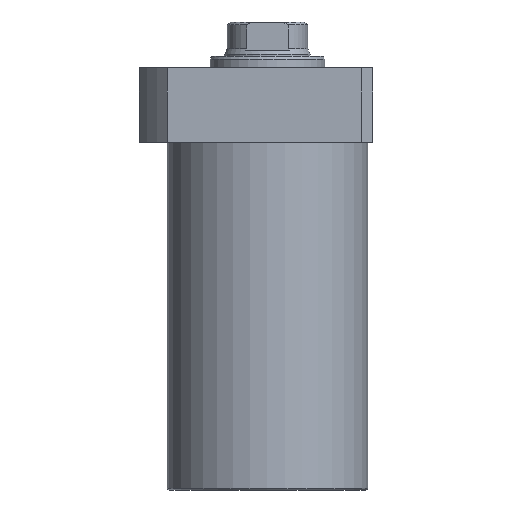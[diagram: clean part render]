
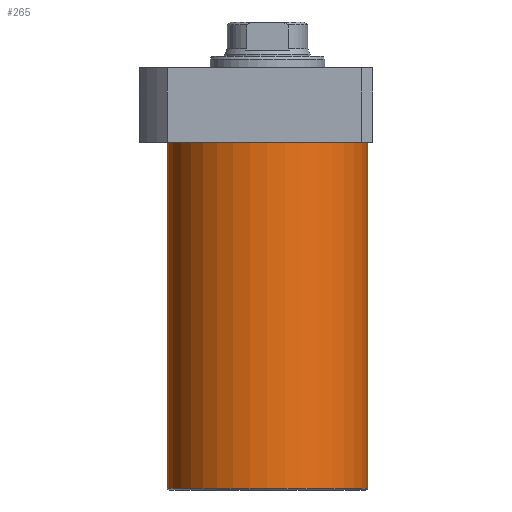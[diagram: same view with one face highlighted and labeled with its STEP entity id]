
A CAD part, front view. The second image highlights one B-rep face of the part: STEP entity #265.
In plain terms, the highlighted cylindrical face has radius 52.5 mm (diameter 105 mm), a partial arc.
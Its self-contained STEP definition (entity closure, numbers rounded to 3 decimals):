
#11 = CARTESIAN_POINT ( 'NONE',  ( 0., 0., -201.5 ) ) ;
#54 = CARTESIAN_POINT ( 'NONE',  ( -52.5, 0., -201.5 ) ) ;
#63 = CARTESIAN_POINT ( 'NONE',  ( 52.5, 0., -19.5 ) ) ;
#159 = DIRECTION ( 'NONE',  ( 0., 0., 1. ) ) ;
#170 = AXIS2_PLACEMENT_3D ( 'NONE', #1018, #399, #1798 ) ;
#265 = ADVANCED_FACE ( 'NONE', ( #1379 ), #272, .T. ) ;
#268 = VECTOR ( 'NONE', #512, 1000. ) ;
#272 = CYLINDRICAL_SURFACE ( 'NONE', #384, 52.5 ) ;
#319 = ORIENTED_EDGE ( 'NONE', *, *, #1429, .T. ) ;
#320 = EDGE_LOOP ( 'NONE', ( #656, #319, #1860, #1551 ) ) ;
#327 = CIRCLE ( 'NONE', #170, 52.5 ) ;
#353 = EDGE_CURVE ( 'NONE', #1261, #1759, #1550, .T. ) ;
#356 = CARTESIAN_POINT ( 'NONE',  ( 52.5, 0., -201.5 ) ) ;
#363 = DIRECTION ( 'NONE',  ( 0., 0., 1. ) ) ;
#384 = AXIS2_PLACEMENT_3D ( 'NONE', #11, #159, #653 ) ;
#399 = DIRECTION ( 'NONE',  ( 0., 0., 1. ) ) ;
#512 = DIRECTION ( 'NONE',  ( 0., 0., 1. ) ) ;
#542 = DIRECTION ( 'NONE',  ( 0., 0., -1. ) ) ;
#653 = DIRECTION ( 'NONE',  ( 1., 0., 0. ) ) ;
#656 = ORIENTED_EDGE ( 'NONE', *, *, #1273, .F. ) ;
#1018 = CARTESIAN_POINT ( 'NONE',  ( 0., 0., -200.5 ) ) ;
#1039 = VERTEX_POINT ( 'NONE', #1782 ) ;
#1087 = VECTOR ( 'NONE', #363, 1000. ) ;
#1261 = VERTEX_POINT ( 'NONE', #1733 ) ;
#1273 = EDGE_CURVE ( 'NONE', #1039, #1374, #1448, .T. ) ;
#1311 = EDGE_CURVE ( 'NONE', #1759, #1374, #1748, .T. ) ;
#1316 = DIRECTION ( 'NONE',  ( 1., 0., 0. ) ) ;
#1374 = VERTEX_POINT ( 'NONE', #1636 ) ;
#1379 = FACE_OUTER_BOUND ( 'NONE', #320, .T. ) ;
#1429 = EDGE_CURVE ( 'NONE', #1039, #1261, #327, .T. ) ;
#1448 = LINE ( 'NONE', #54, #268 ) ;
#1550 = LINE ( 'NONE', #356, #1087 ) ;
#1551 = ORIENTED_EDGE ( 'NONE', *, *, #1311, .T. ) ;
#1636 = CARTESIAN_POINT ( 'NONE',  ( -52.5, 0., -19.5 ) ) ;
#1733 = CARTESIAN_POINT ( 'NONE',  ( 52.5, 0., -200.5 ) ) ;
#1739 = AXIS2_PLACEMENT_3D ( 'NONE', #1922, #542, #1316 ) ;
#1748 = CIRCLE ( 'NONE', #1739, 52.5 ) ;
#1759 = VERTEX_POINT ( 'NONE', #63 ) ;
#1782 = CARTESIAN_POINT ( 'NONE',  ( -52.5, 0., -200.5 ) ) ;
#1798 = DIRECTION ( 'NONE',  ( -1., 0., 0. ) ) ;
#1860 = ORIENTED_EDGE ( 'NONE', *, *, #353, .T. ) ;
#1922 = CARTESIAN_POINT ( 'NONE',  ( 0., 0., -19.5 ) ) ;
